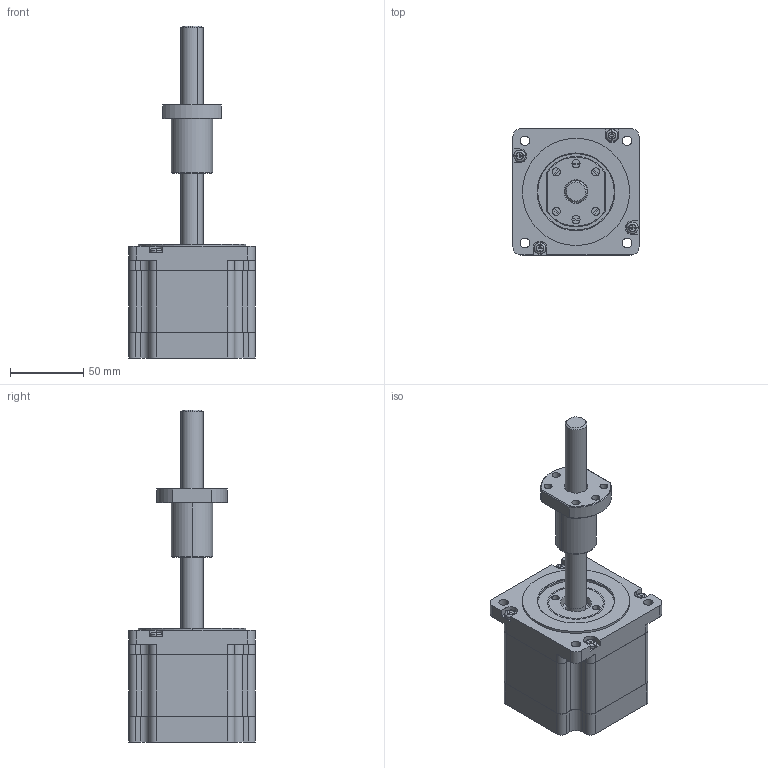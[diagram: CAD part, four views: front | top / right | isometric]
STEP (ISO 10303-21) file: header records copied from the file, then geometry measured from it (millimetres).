
FILE_DESCRIPTION (( 'STEP AP203' ), '1' );
FILE_NAME ('86外驱.STEP', '2014-09-12T06:05:47', ( 'user' ), ( 'pxctfys' ), 'SwSTEP 2.0', 'SolidWorks 2012', '' );
FILE_SCHEMA (( 'CONFIG_CONTROL_DESIGN' ));
Length unit declared in the file: millimetre
Products named in the file (1): 86外驱
Bounding box: 85.9 x 85.9 x 226 mm (x, y, z)
Surface area: 71000.6 mm2 (no closed solid volume)
Topology: 0 solids, 23 shells, 277 faces, 1290 edges, 1038 vertices
Faces by surface type: plane 142, cylinder 105, cone 16, torus 14
Entity records: 13532 total; most frequent: CARTESIAN_POINT 2630, DIRECTION 2445, ORIENTED_EDGE 1918, EDGE_CURVE 1290, VERTEX_POINT 1038, AXIS2_PLACEMENT_3D 885, LINE 675, VECTOR 675
